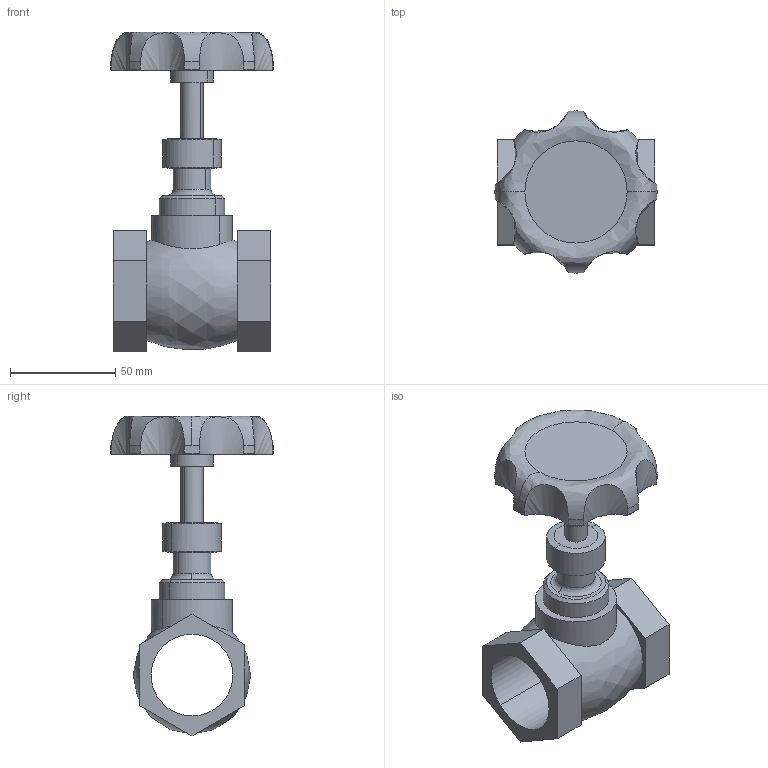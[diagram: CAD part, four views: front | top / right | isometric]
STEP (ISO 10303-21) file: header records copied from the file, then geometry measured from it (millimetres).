
FILE_DESCRIPTION((''),'2;1');
FILE_NAME('','2018-10-23T13:25:31',(''),(''),'','CADfix','');
FILE_SCHEMA(('AUTOMOTIVE_DESIGN { 1 0 10303 214 1 1 1 1 }'));
Length unit declared in the file: millimetre
Bounding box: 77 x 77 x 151.86 mm (x, y, z)
Volume: 174933.6 mm3; surface area: 42530.1 mm2
Topology: 1 solids, 1 shells, 73 faces, 251 edges, 188 vertices
Faces by surface type: bspline 73
Entity records: 4961 total; most frequent: CARTESIAN_POINT 3504, ORIENTED_EDGE 502, EDGE_CURVE 251, VERTEX_POINT 188, B_SPLINE_CURVE_WITH_KNOTS 168, EDGE_LOOP 83, FACE_OUTER_BOUND 73, ADVANCED_FACE 73
